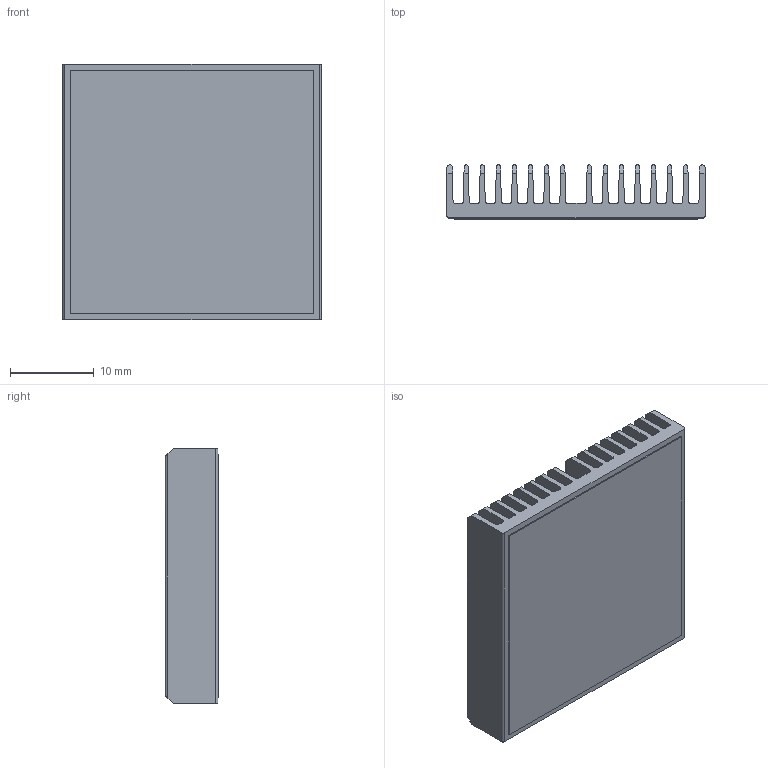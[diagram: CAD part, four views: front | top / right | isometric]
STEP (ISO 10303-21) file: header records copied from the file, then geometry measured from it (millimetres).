
FILE_DESCRIPTION (( 'STEP AP214' ), '1' );
FILE_NAME ('INL31001-6-1.7.STEP', '2023-02-22T19:35:33', ( '' ), ( '' ), 'SwSTEP 2.0', 'SolidWorks 2020', '' );
FILE_SCHEMA (( 'AUTOMOTIVE_DESIGN' ));
Length unit declared in the file: millimetre
Products named in the file (1): INL31001-6-1.7
Bounding box: 30.8 x 6.43 x 30.5 mm (x, y, z)
Volume: 3071.2 mm3; surface area: 8028.6 mm2
Topology: 2 solids, 2 shells, 136 faces, 396 edges, 264 vertices
Faces by surface type: plane 88, cylinder 48
Entity records: 6003 total; most frequent: CARTESIAN_POINT 893, ORIENTED_EDGE 792, DIRECTION 702, EDGE_CURVE 396, LINE 300, VECTOR 300, VERTEX_POINT 264, AXIS2_PLACEMENT_3D 201
